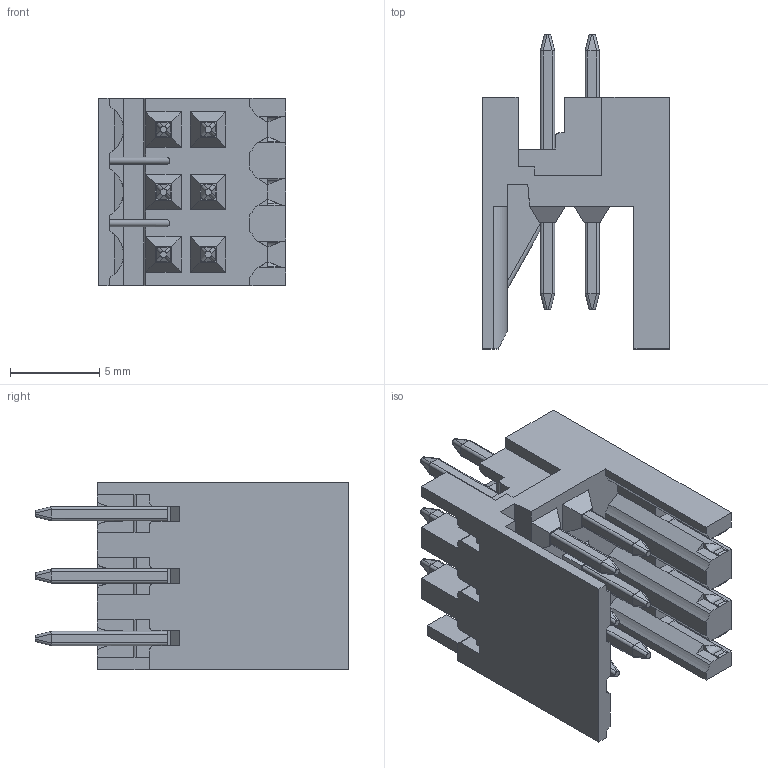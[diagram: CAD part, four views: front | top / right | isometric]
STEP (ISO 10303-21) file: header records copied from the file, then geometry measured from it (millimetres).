
FILE_DESCRIPTION((''),'2;1');
FILE_NAME('VX0610300000G','2021-05-13T',('renkang.li'),(''),'CREO PARAMETRIC BY PTC INC, 2016260','CREO PARAMETRIC BY PTC INC, 2016260','');
FILE_SCHEMA(('CONFIG_CONTROL_DESIGN'));
Length unit declared in the file: millimetre
Products named in the file (1): VX0610300000G
Bounding box: 10.5 x 17.6 x 10.5 mm (x, y, z)
Volume: 643.8 mm3; surface area: 1531.5 mm2
Topology: 1 solids, 13 shells, 806 faces, 2263 edges, 1500 vertices
Faces by surface type: plane 561, cylinder 125, torus 96, extrusion 24
Entity records: 27754 total; most frequent: CARTESIAN_POINT 7506, ORIENTED_EDGE 4526, DIRECTION 3719, EDGE_CURVE 2263, VECTOR 1531, LINE 1507, VERTEX_POINT 1500, AXIS2_PLACEMENT_3D 1094
